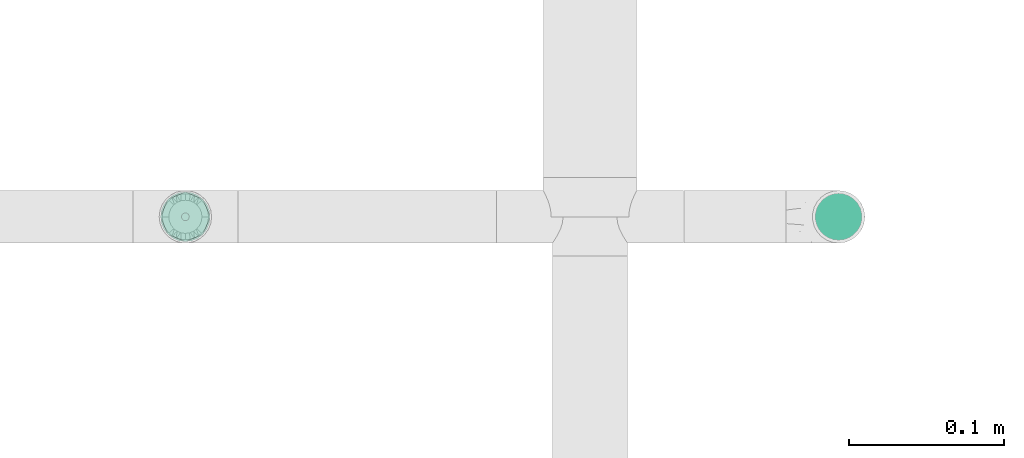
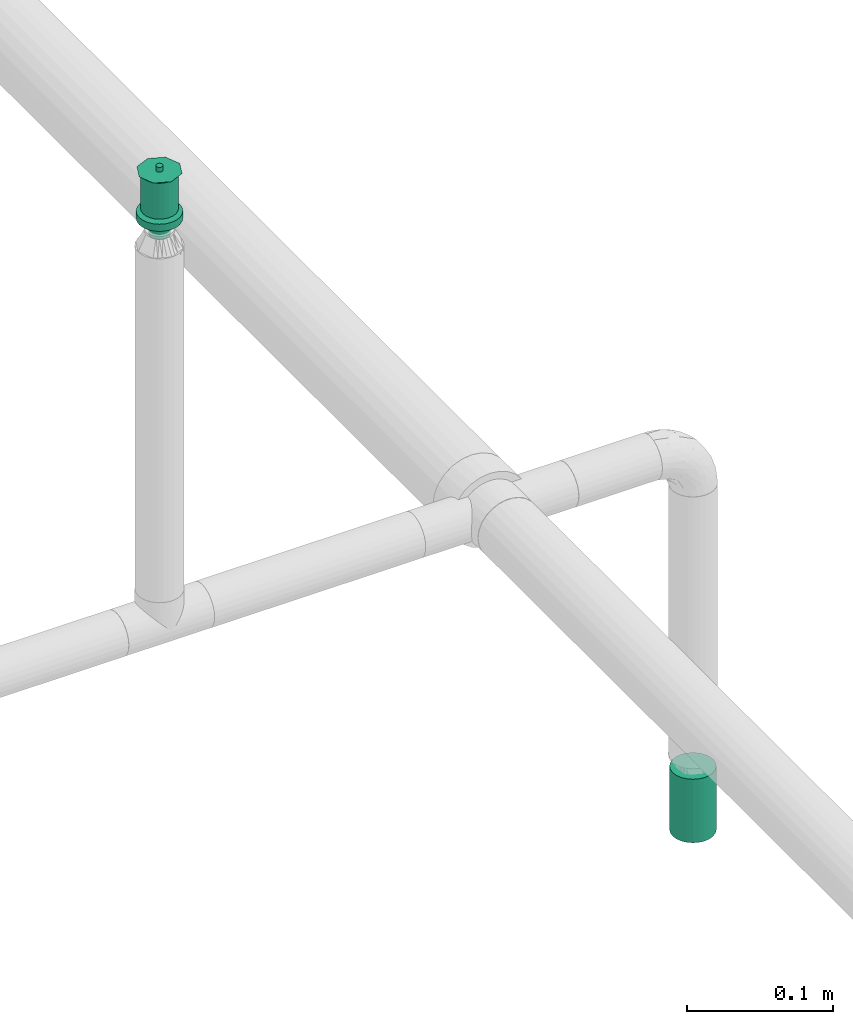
# One storey, part 101 of 157: 2 flow terminals.
"""IFC2X3 building model written with IfcOpenShell, lengths in millimetres."""

from ifc_helpers import new_model, entity, si_unit, converted_unit, derived_unit, direction, frame, origin_with_axes, place, context, subcontext, project, spatial, open_shell, surface_model, source, transform, mapped, type_object, element, save


model = new_model("IFC2X3")

# Units and contexts
model_context = context("Model", 3, precision=0.01, world=frame((0.0, 4.29681676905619e-09, 0.0)), true_north=direction((4.01073788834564e-13, 1.0)))
plan_context = context("Plan", 3, precision=0.01, world=frame((0.0, 4.29681676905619e-09, 0.0)), true_north=direction((4.01073788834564e-13, 1.0)))
body_context = subcontext(model_context, "Body", "Model", "MODEL_VIEW")
ifc_project = project(units=[converted_unit("PLANEANGLEUNIT", "DEGREE", entity("IfcPositiveLengthMeasure", 0.0174532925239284), si_unit("PLANEANGLEUNIT", "RADIAN"), dimensions=[0, 0, 0, 0, 0, 0, 0]), si_unit("AREAUNIT", "SQUARE_METRE"), si_unit("LENGTHUNIT", "METRE", prefix="MILLI"), si_unit("MASSUNIT", "GRAM", prefix="KILO"), si_unit("POWERUNIT", "WATT"), si_unit("PRESSUREUNIT", "PASCAL"), si_unit("FORCEUNIT", "NEWTON", prefix="KILO"), si_unit("ELECTRICCURRENTUNIT", "AMPERE"), si_unit("THERMODYNAMICTEMPERATUREUNIT", "DEGREE_CELSIUS"), si_unit("TIMEUNIT", "SECOND"), si_unit("VOLUMEUNIT", "CUBIC_METRE"), derived_unit("LINEARVELOCITYUNIT", [(si_unit("LENGTHUNIT", "METRE"), 1), (si_unit("TIMEUNIT", "SECOND"), -1)]), derived_unit("VOLUMETRICFLOWRATEUNIT", [(si_unit("VOLUMEUNIT", "CUBIC_METRE"), 1), (si_unit("TIMEUNIT", "SECOND"), -1)]), derived_unit("THERMALTRANSMITTANCEUNIT", [(si_unit("POWERUNIT", "WATT"), 1), (si_unit("THERMODYNAMICTEMPERATUREUNIT", "KELVIN"), -1), (si_unit("AREAUNIT", "SQUARE_METRE"), -1)])], contexts=[model_context, plan_context])

# Site, building, storey
site_placement = place(None, frame((0.0, -4.29681676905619e-09, 0.0), z_axis=(0.0, 0.0, 1.0), x_axis=(1.0, 0.0, 0.0)))
site = spatial("IfcSite", under=ifc_project, at=site_placement, CompositionType="ELEMENT")
building_placement = place(site_placement, frame((0.0, 4.29681676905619e-09, 0.0), z_axis=(0.0, 0.0, 1.0), x_axis=(1.0, 0.0, 0.0)))
building = spatial("IfcBuilding", under=site, at=building_placement, Name="mc-building", CompositionType="ELEMENT")
storey_placement = place(building_placement, frame((0.0, 0.0, 204000.0), z_axis=(0.0, 0.0, 1.0), x_axis=(1.0, 0.0, 0.0)))
storey = spatial("IfcBuildingStorey", under=building, at=storey_placement, Name="Nivå D", CompositionType="ELEMENT", Elevation=204000.0)

# Flow terminals
fire_suppression_terminal_type_1 = type_object("IfcFireSuppressionTerminalType", Name="SP-15-K80-68DGR-STD-NEDOVER-TØRR", PredefinedType="NOTDEFINED")
shared_shape_1 = source(origin_with_axes(), body_context, "Body", "SurfaceModel", [
    surface_model("IfcShellBasedSurfaceModel", [(4.1411, -15.45481, 53.0), (8.0, -13.85641, 53.0), (11.31371, -11.31371, 53.0), (-8.0, -13.85641, 53.0), (15.45481, -4.1411, 53.0), (16.0, 0.0, 53.0), (13.85641, -8.0, 53.0), (0.0, -16.0, 53.0), (-4.1411, -15.45481, 53.0), (-13.85641, -8.0, 53.0), (-11.31371, -11.31371, 53.0), (-15.45481, -4.1411, 53.0), (15.45481, 4.1411, 53.0), (13.85641, 8.0, 53.0), (11.31371, 11.31371, 53.0), (-4.1411, 15.45481, 53.0), (8.0, 13.85641, 53.0), (4.1411, 15.45481, 53.0), (0.0, 16.0, 53.0), (-13.85641, 8.0, 53.0), (-15.45481, 4.1411, 53.0), (-16.0, 0.0, 53.0), (-11.31371, 11.31371, 53.0), (-8.0, 13.85641, 53.0), (0.0, 16.0, 0.0), (4.1411, 15.45481, 0.0), (8.0, 13.85641, 0.0), (-4.1411, 15.45481, 0.0), (11.31371, 11.31371, 0.0), (13.85641, 8.0, 0.0), (15.45481, 4.1411, 0.0), (-15.45481, -4.1411, 0.0), (-11.31371, 11.31371, 0.0), (-8.0, 13.85641, 0.0), (-13.85641, 8.0, 0.0), (-15.45481, 4.1411, 0.0), (-16.0, 0.0, 0.0), (4.1411, -15.45481, 0.0), (16.0, 0.0, 0.0), (15.45481, -4.1411, 0.0), (13.85641, -8.0, 0.0), (11.31371, -11.31371, 0.0), (8.0, -13.85641, 0.0), (-8.0, -13.85641, 0.0), (-13.85641, -8.0, 0.0), (-11.31371, -11.31371, 0.0), (0.0, -16.0, 0.0), (-4.1411, -15.45481, 0.0)], [open_shell([[[0, 1, 2]], [[3, 0, 2]], [[4, 5, 2]], [[4, 2, 6]], [[3, 2, 5]], [[7, 3, 8]], [[7, 0, 3]], [[3, 9, 10]], [[9, 3, 11]], [[5, 11, 3]], [[5, 12, 11]], [[12, 13, 14]], [[15, 12, 14]], [[16, 17, 18]], [[14, 16, 15]], [[18, 15, 16]], [[11, 19, 20]], [[21, 11, 20]], [[22, 15, 23]], [[15, 22, 19]], [[19, 11, 15]], [[11, 12, 15]], [[24, 25, 26]], [[27, 24, 26]], [[28, 29, 30]], [[27, 26, 28]], [[27, 28, 31]], [[27, 32, 33]], [[32, 27, 34]], [[34, 31, 35]], [[31, 34, 27]], [[35, 31, 36]], [[28, 30, 31]], [[37, 38, 39]], [[37, 39, 40]], [[41, 42, 37]], [[41, 37, 40]], [[38, 37, 43]], [[44, 43, 45]], [[43, 44, 31]], [[43, 46, 47]], [[43, 31, 38]], [[37, 46, 43]], [[38, 31, 30]], [[11, 31, 44]], [[45, 9, 44]], [[3, 43, 47]], [[45, 43, 10]], [[8, 47, 46]], [[31, 21, 36]], [[31, 11, 21]], [[44, 9, 11]], [[45, 10, 9]], [[3, 10, 43]], [[47, 8, 3]], [[46, 7, 8]], [[0, 37, 42]], [[41, 1, 42]], [[6, 40, 39]], [[41, 40, 2]], [[4, 39, 38]], [[37, 0, 7]], [[42, 1, 0]], [[41, 2, 1]], [[40, 6, 2]], [[4, 6, 39]], [[38, 5, 4]], [[37, 7, 46]], [[12, 38, 30]], [[13, 30, 29]], [[16, 26, 25]], [[17, 25, 24]], [[30, 13, 12]], [[12, 5, 38]], [[28, 14, 13]], [[28, 26, 14]], [[14, 26, 16]], [[25, 17, 16]], [[28, 13, 29]], [[24, 18, 17]], [[15, 27, 33]], [[32, 23, 33]], [[19, 34, 35]], [[32, 34, 22]], [[20, 35, 36]], [[27, 15, 18]], [[33, 23, 15]], [[32, 22, 23]], [[34, 19, 22]], [[20, 19, 35]], [[36, 21, 20]], [[27, 18, 24]]])]),
])
flow_terminal_1_placement = place(storey_placement, frame((531260.79653, 410800.0, 2420.0), z_axis=(0.0, 0.0, -1.0), x_axis=(1.0, 0.0, 0.0)))
element("IfcFlowTerminal", 1, at=flow_terminal_1_placement, inside=storey, type_object=fire_suppression_terminal_type_1, Name="SP-15-K80-68DGR-STD-NEDOVER-TØRR", context=body_context, shape_type="MappedRepresentation", body=[
    mapped(shared_shape_1, transform((0.0, 0.0, 0.0), scale=1.0)),
])
fire_suppression_terminal_type_2 = type_object("IfcFireSuppressionTerminalType", Name="68DGR-STD-STÅENDE", PredefinedType="NOTDEFINED")
shared_shape_2 = source(origin_with_axes(), body_context, "Body", "SurfaceModel", [
    surface_model("IfcShellBasedSurfaceModel", [(3.36465, -12.55704, 51.0), (6.5, -11.25833, 51.0), (9.19239, -9.19239, 51.0), (12.55704, -3.36465, 51.0), (-11.25833, -6.5, 51.0), (11.25833, -6.5, 51.0), (-13.0, 0.0, 51.0), (0.0, -13.0, 51.0), (-6.5, -11.25833, 51.0), (-3.36465, -12.55704, 51.0), (-9.19239, -9.19239, 51.0), (-12.55704, -3.36465, 51.0), (13.0, 0.0, 51.0), (12.55704, 3.36465, 51.0), (11.25833, 6.5, 51.0), (9.19239, 9.19239, 51.0), (6.5, 11.25833, 51.0), (3.36465, 12.55704, 51.0), (0.0, 13.0, 51.0), (-3.36465, 12.55704, 51.0), (-12.55704, 3.36465, 51.0), (-9.19239, 9.19239, 51.0), (-11.25833, 6.5, 51.0), (-6.5, 11.25833, 51.0), (0.0, 13.0, 21.14766), (3.36465, 12.55704, 21.14766), (6.5, 11.25833, 21.14766), (-3.36465, 12.55704, 21.14766), (9.19239, 9.19239, 21.14766), (11.25833, 6.5, 21.14766), (12.55704, 3.36465, 21.14766), (-12.55704, 3.36465, 21.14766), (-11.25833, -6.5, 21.14766), (-9.19239, 9.19239, 21.14766), (-6.5, 11.25833, 21.14766), (-11.25833, 6.5, 21.14766), (-13.0, 0.0, 21.14766), (12.55704, -3.36465, 21.14766), (9.19239, -9.19239, 21.14766), (11.25833, -6.5, 21.14766), (6.5, -11.25833, 21.14766), (3.36465, -12.55704, 21.14766), (-6.5, -11.25833, 21.14766), (-9.19239, -9.19239, 21.14766), (-12.55704, -3.36465, 21.14766), (0.0, -13.0, 21.14766), (-3.36465, -12.55704, 21.14766), (13.0, 0.0, 21.14766), (7.24444, -1.94114, 0.1), (1.94114, -7.24444, 0.1), (3.75, -6.49519, 0.1), (5.3033, -5.3033, 0.1), (-5.3033, -5.3033, 0.1), (6.49519, -3.75, 0.1), (5.3033, 5.3033, 0.1), (0.0, -7.5, 0.1), (-3.75, -6.49519, 0.1), (-1.94114, -7.24444, 0.1), (-7.24444, -1.94114, 0.1), (-6.49519, -3.75, 0.1), (-7.24444, 1.94114, 0.1), (7.5, 0.0, 0.1), (6.49519, 3.75, 0.1), (-6.49519, 3.75, 0.1), (1.94114, 7.24444, 0.1), (0.0, 7.5, 0.1), (3.75, 6.49519, 0.1), (-7.5, 0.0, 0.1), (-5.3033, 5.3033, 0.1), (-1.94114, 7.24444, 0.1), (-3.75, 6.49519, 0.1), (7.24444, 1.94114, 0.1), (1.94114, 7.24444, -0.1), (-6.49519, 3.75, -0.1), (0.0, 7.5, -0.1), (5.3033, 5.3033, -0.1), (3.75, 6.49519, -0.1), (6.49519, 3.75, -0.1), (7.24444, 1.94114, -0.1), (-1.94114, 7.24444, -0.1), (-5.3033, 5.3033, -0.1), (-3.75, 6.49519, -0.1), (-7.24444, 1.94114, -0.1), (-7.24444, -1.94114, -0.1), (-7.5, 0.0, -0.1), (7.5, 0.0, -0.1), (7.24444, -1.94114, -0.1), (-5.3033, -5.3033, -0.1), (1.94114, -7.24444, -0.1), (6.49519, -3.75, -0.1), (5.3033, -5.3033, -0.1), (3.75, -6.49519, -0.1), (-6.49519, -3.75, -0.1), (-3.75, -6.49519, -0.1), (0.0, -7.5, -0.1), (-1.94114, -7.24444, -0.1), (0.0, -2.5, 51.0), (-2.5, 0.0, 51.0), (0.0, 2.5, 51.0), (2.5, 0.0, 51.0), (0.0, -16.0, 53.0), (11.31371, -11.31371, 53.0), (-11.31371, -11.31371, 53.0), (-16.0, 0.0, 53.0), (16.0, 0.0, 53.0), (11.31371, 11.31371, 53.0), (0.0, 16.0, 53.0), (-11.31371, 11.31371, 53.0), (1.25, -2.16506, 57.0), (0.0, -2.5, 57.0), (0.64705, -2.41481, 57.0), (2.41481, -0.64705, 57.0), (1.76777, -1.76777, 57.0), (-2.41481, -0.64705, 57.0), (-2.5, 0.0, 57.0), (2.16506, -1.25, 57.0), (-1.25, -2.16506, 57.0), (-0.64705, -2.41481, 57.0), (-1.76777, -1.76777, 57.0), (-2.16506, -1.25, 57.0), (2.5, 0.0, 57.0), (2.41481, 0.64705, 57.0), (2.16506, 1.25, 57.0), (1.76777, 1.76777, 57.0), (0.64705, 2.41481, 57.0), (1.25, 2.16506, 57.0), (-1.76777, 1.76777, 57.0), (0.0, 2.5, 57.0), (-2.16506, 1.25, 57.0), (-2.41481, 0.64705, 57.0), (-0.64705, 2.41481, 57.0), (-1.25, 2.16506, 57.0), (1.25, 2.16506, 51.0), (1.76777, 1.76777, 51.0), (1.15, 1.99186, 51.0), (0.59528, 2.22163, 51.0), (0.64705, 2.41481, 51.0), (0.0, 2.3, 51.0), (1.62635, 1.62635, 51.0), (2.41481, 0.64705, 51.0), (2.3, 0.0, 51.0), (2.22163, 0.59528, 51.0), (2.16506, 1.25, 51.0), (1.99186, 1.15, 51.0), (-0.59528, 2.22163, 51.0), (-0.64705, 2.41481, 51.0), (-1.15, 1.99186, 51.0), (-1.76777, 1.76777, 51.0), (-1.25, 2.16506, 51.0), (-1.62635, 1.62635, 51.0), (-1.99186, 1.15, 51.0), (-2.16506, 1.25, 51.0), (-2.22163, 0.59528, 51.0), (-2.41481, 0.64705, 51.0), (-2.3, 0.0, 51.0), (2.41481, -0.64705, 51.0), (2.22163, -0.59528, 51.0), (1.99186, -1.15, 51.0), (2.16506, -1.25, 51.0), (1.62635, -1.62635, 51.0), (1.76777, -1.76777, 51.0), (1.25, -2.16506, 51.0), (1.15, -1.99186, 51.0), (0.59528, -2.22163, 51.0), (0.64705, -2.41481, 51.0), (0.0, -2.3, 51.0), (-2.16506, -1.25, 51.0), (-1.99186, -1.15, 51.0), (-1.76777, -1.76777, 51.0), (-1.62635, -1.62635, 51.0), (-2.41481, -0.64705, 51.0), (-2.22163, -0.59528, 51.0), (-0.59528, -2.22163, 51.0), (-0.64705, -2.41481, 51.0), (-1.15, -1.99186, 51.0), (-1.25, -2.16506, 51.0), (1.62635, -1.62635, 56.8), (1.15, -1.99186, 56.8), (0.59528, -2.22163, 56.8), (0.0, -2.3, 56.8), (2.22163, 0.59528, 56.8), (1.99186, -1.15, 56.8), (2.22163, -0.59528, 56.8), (-0.59528, -2.22163, 56.8), (-1.15, -1.99186, 56.8), (-1.62635, -1.62635, 56.8), (-1.99186, -1.15, 56.8), (-2.22163, -0.59528, 56.8), (-1.99186, 1.15, 56.8), (2.3, 0.0, 56.8), (1.62635, 1.62635, 56.8), (1.99186, 1.15, 56.8), (1.15, 1.99186, 56.8), (0.0, 2.3, 56.8), (0.59528, 2.22163, 56.8), (-2.22163, 0.59528, 56.8), (-2.3, 0.0, 56.8), (-1.15, 1.99186, 56.8), (-0.59528, 2.22163, 56.8), (-1.62635, 1.62635, 56.8), (4.1411, -15.45481, 19.0), (8.0, -13.85641, 19.0), (11.31371, -11.31371, 19.0), (-8.0, -13.85641, 19.0), (15.45481, -4.1411, 19.0), (16.0, 0.0, 19.0), (13.85641, -8.0, 19.0), (0.0, -16.0, 19.0), (-4.1411, -15.45481, 19.0), (-13.85641, -8.0, 19.0), (-11.31371, -11.31371, 19.0), (-15.45481, -4.1411, 19.0), (15.45481, 4.1411, 19.0), (13.85641, 8.0, 19.0), (11.31371, 11.31371, 19.0), (-4.1411, 15.45481, 19.0), (8.0, 13.85641, 19.0), (4.1411, 15.45481, 19.0), (0.0, 16.0, 19.0), (-13.85641, 8.0, 19.0), (-15.45481, 4.1411, 19.0), (-16.0, 0.0, 19.0), (-11.31371, 11.31371, 19.0), (-8.0, 13.85641, 19.0), (0.0, 16.0, 13.0), (4.1411, 15.45481, 13.0), (8.0, 13.85641, 13.0), (-4.1411, 15.45481, 13.0), (11.31371, 11.31371, 13.0), (13.85641, 8.0, 13.0), (15.45481, 4.1411, 13.0), (-15.45481, -4.1411, 13.0), (-11.31371, 11.31371, 13.0), (-8.0, 13.85641, 13.0), (-13.85641, 8.0, 13.0), (-15.45481, 4.1411, 13.0), (-16.0, 0.0, 13.0), (4.1411, -15.45481, 13.0), (16.0, 0.0, 13.0), (15.45481, -4.1411, 13.0), (13.85641, -8.0, 13.0), (11.31371, -11.31371, 13.0), (8.0, -13.85641, 13.0), (-8.0, -13.85641, 13.0), (-13.85641, -8.0, 13.0), (-11.31371, -11.31371, 13.0), (0.0, -16.0, 13.0), (-4.1411, -15.45481, 13.0), (7.24444, -1.94114, 13.0), (1.94114, -7.24444, 13.0), (3.75, -6.49519, 13.0), (5.3033, -5.3033, 13.0), (-5.3033, -5.3033, 13.0), (6.49519, -3.75, 13.0), (5.3033, 5.3033, 13.0), (0.0, -7.5, 13.0), (-3.75, -6.49519, 13.0), (-1.94114, -7.24444, 13.0), (-7.24444, -1.94114, 13.0), (-6.49519, -3.75, 13.0), (-7.24444, 1.94114, 13.0), (7.5, 0.0, 13.0), (6.49519, 3.75, 13.0), (-6.49519, 3.75, 13.0), (1.94114, 7.24444, 13.0), (0.0, 7.5, 13.0), (3.75, 6.49519, 13.0), (-7.5, 0.0, 13.0), (-5.3033, 5.3033, 13.0), (-1.94114, 7.24444, 13.0), (-3.75, 6.49519, 13.0), (7.24444, 1.94114, 13.0), (3.75, 6.49519, 0.0), (5.3033, 5.3033, 0.0), (3.65, 6.32199, 0.0), (1.88938, 7.05126, 0.0), (0.0, 7.3, 0.0), (1.94114, 7.24444, 0.0), (0.0, 7.5, 0.0), (5.16188, 5.16188, 0.0), (7.24444, 1.94114, 0.0), (7.3, 0.0, 0.0), (7.05126, 1.88938, 0.0), (7.5, 0.0, 0.0), (6.49519, 3.75, 0.0), (6.32199, 3.65, 0.0), (-1.88938, 7.05126, 0.0), (-1.94114, 7.24444, 0.0), (-3.65, 6.32199, 0.0), (-5.3033, 5.3033, 0.0), (-3.75, 6.49519, 0.0), (-5.16188, 5.16188, 0.0), (-6.32199, 3.65, 0.0), (-6.49519, 3.75, 0.0), (-7.05126, 1.88938, 0.0), (-7.24444, 1.94114, 0.0), (-7.3, 0.0, 0.0), (-7.5, 0.0, 0.0), (7.24444, -1.94114, 0.0), (7.05126, -1.88938, 0.0), (6.32199, -3.65, 0.0), (6.49519, -3.75, 0.0), (5.16188, -5.16188, 0.0), (5.3033, -5.3033, 0.0), (3.75, -6.49519, 0.0), (3.65, -6.32199, 0.0), (1.88938, -7.05126, 0.0), (1.94114, -7.24444, 0.0), (0.0, -7.3, 0.0), (0.0, -7.5, 0.0), (-6.49519, -3.75, 0.0), (-6.32199, -3.65, 0.0), (-5.3033, -5.3033, 0.0), (-5.16188, -5.16188, 0.0), (-7.24444, -1.94114, 0.0), (-7.05126, -1.88938, 0.0), (-1.88938, -7.05126, 0.0), (-1.94114, -7.24444, 0.0), (-3.65, -6.32199, 0.0), (-3.75, -6.49519, 0.0), (1.88938, -7.05126, 12.8), (0.0, -7.3, 12.8), (3.65, -6.32199, 12.8), (5.16188, -5.16188, 12.8), (6.32199, -3.65, 12.8), (7.05126, 1.88938, 12.8), (7.05126, -1.88938, 12.8), (-5.16188, -5.16188, 12.8), (-1.88938, -7.05126, 12.8), (-3.65, -6.32199, 12.8), (-6.32199, -3.65, 12.8), (-7.05126, -1.88938, 12.8), (0.0, 7.3, 12.8), (7.3, 0.0, 12.8), (6.32199, 3.65, 12.8), (5.16188, 5.16188, 12.8), (3.65, 6.32199, 12.8), (1.88938, 7.05126, 12.8), (-6.32199, 3.65, 12.8), (-7.05126, 1.88938, 12.8), (-7.3, 0.0, 12.8), (-3.65, 6.32199, 12.8), (-1.88938, 7.05126, 12.8), (-5.16188, 5.16188, 12.8)], [open_shell([[[0, 1, 2]], [[0, 2, 3]], [[0, 3, 4]], [[3, 2, 5]], [[6, 4, 3]], [[7, 8, 9]], [[7, 0, 8]], [[8, 4, 10]], [[0, 4, 8]], [[4, 6, 11]], [[6, 3, 12]], [[13, 14, 15]], [[6, 13, 15]], [[16, 17, 18]], [[15, 16, 19]], [[18, 19, 16]], [[20, 21, 22]], [[20, 6, 15]], [[21, 19, 23]], [[19, 21, 20]], [[15, 19, 20]], [[13, 6, 12]], [[24, 25, 26]], [[27, 24, 26]], [[28, 29, 30]], [[26, 28, 31]], [[28, 32, 31]], [[27, 33, 34]], [[33, 27, 31]], [[33, 31, 35]], [[27, 26, 31]], [[31, 32, 36]], [[32, 28, 30]], [[32, 30, 37]], [[38, 37, 39]], [[38, 40, 41]], [[38, 41, 37]], [[32, 37, 41]], [[32, 42, 43]], [[44, 36, 32]], [[42, 45, 46]], [[42, 32, 41]], [[45, 42, 41]], [[30, 47, 37]], [[4, 32, 43]], [[8, 42, 46]], [[43, 42, 10]], [[9, 46, 45]], [[36, 11, 6]], [[11, 36, 44]], [[11, 44, 4]], [[44, 32, 4]], [[43, 10, 4]], [[8, 10, 42]], [[46, 9, 8]], [[45, 7, 9]], [[0, 41, 40]], [[38, 1, 40]], [[5, 39, 37]], [[38, 39, 2]], [[3, 37, 47]], [[41, 0, 7]], [[40, 1, 0]], [[38, 2, 1]], [[39, 5, 2]], [[3, 5, 37]], [[47, 12, 3]], [[41, 7, 45]], [[30, 13, 47]], [[29, 14, 30]], [[25, 24, 17]], [[15, 29, 28]], [[30, 14, 13]], [[13, 12, 47]], [[16, 26, 17]], [[16, 15, 28]], [[26, 25, 17]], [[15, 14, 29]], [[28, 26, 16]], [[24, 18, 17]], [[19, 27, 34]], [[33, 23, 34]], [[22, 35, 31]], [[33, 35, 21]], [[20, 31, 36]], [[27, 19, 18]], [[34, 23, 19]], [[33, 21, 23]], [[35, 22, 21]], [[20, 22, 31]], [[36, 6, 20]], [[27, 18, 24]], [[48, 49, 50]], [[48, 50, 51]], [[49, 48, 52]], [[48, 51, 53]], [[54, 52, 48]], [[55, 56, 57]], [[56, 55, 52]], [[52, 58, 59]], [[52, 55, 49]], [[52, 60, 58]], [[54, 48, 61]], [[62, 54, 61]], [[54, 63, 52]], [[64, 65, 54]], [[64, 54, 66]], [[63, 54, 65]], [[63, 60, 52]], [[67, 58, 60]], [[68, 69, 70]], [[69, 68, 63]], [[69, 63, 65]], [[71, 62, 61]], [[72, 73, 74]], [[75, 72, 76]], [[75, 77, 78]], [[72, 75, 73]], [[78, 73, 75]], [[79, 80, 81]], [[80, 79, 73]], [[74, 73, 79]], [[78, 82, 73]], [[82, 83, 84]], [[82, 78, 85]], [[86, 87, 85]], [[88, 86, 89]], [[90, 91, 88]], [[90, 88, 89]], [[87, 86, 88]], [[83, 87, 92]], [[83, 85, 87]], [[93, 94, 95]], [[94, 93, 87]], [[88, 94, 87]], [[85, 83, 82]], [[83, 58, 84]], [[92, 59, 83]], [[56, 87, 93]], [[92, 87, 52]], [[57, 93, 95]], [[83, 59, 58]], [[58, 67, 84]], [[57, 56, 93]], [[52, 87, 56]], [[52, 59, 92]], [[55, 57, 95]], [[95, 94, 55]], [[88, 49, 94]], [[91, 50, 88]], [[53, 90, 89]], [[91, 90, 51]], [[48, 89, 86]], [[91, 51, 50]], [[50, 49, 88]], [[61, 48, 86]], [[53, 89, 48]], [[53, 51, 90]], [[85, 61, 86]], [[94, 49, 55]], [[78, 71, 85]], [[77, 62, 78]], [[66, 75, 76]], [[77, 75, 54]], [[64, 76, 72]], [[78, 62, 71]], [[71, 61, 85]], [[64, 66, 76]], [[54, 75, 66]], [[54, 62, 77]], [[65, 64, 72]], [[72, 74, 65]], [[79, 69, 74]], [[81, 70, 79]], [[63, 80, 73]], [[81, 80, 68]], [[60, 73, 82]], [[81, 68, 70]], [[70, 69, 79]], [[67, 60, 82]], [[63, 73, 60]], [[63, 68, 80]], [[84, 67, 82]], [[74, 69, 65]], [[96, 97, 98]], [[98, 99, 96]], [[100, 101, 102]], [[103, 102, 101]], [[101, 104, 103]], [[104, 105, 106]], [[107, 103, 106]], [[106, 103, 104]], [[99, 98, 105]], [[105, 104, 99]], [[98, 106, 105]], [[98, 107, 106]], [[107, 98, 97]], [[103, 107, 97]], [[97, 96, 102]], [[102, 103, 97]], [[96, 100, 102]], [[96, 101, 100]], [[101, 96, 99]], [[104, 101, 99]], [[108, 109, 110]], [[111, 108, 112]], [[113, 108, 114]], [[111, 112, 115]], [[108, 111, 114]], [[109, 116, 117]], [[116, 109, 118]], [[118, 113, 119]], [[118, 109, 108]], [[108, 113, 118]], [[111, 120, 114]], [[121, 122, 123]], [[114, 121, 123]], [[114, 123, 124]], [[124, 123, 125]], [[126, 124, 127]], [[124, 128, 129]], [[129, 114, 124]], [[126, 130, 131]], [[128, 124, 126]], [[130, 126, 127]], [[121, 114, 120]], [[132, 133, 134]], [[132, 134, 135]], [[136, 135, 137]], [[135, 136, 132]], [[136, 137, 98]], [[134, 133, 138]], [[139, 140, 141]], [[140, 139, 99]], [[139, 141, 142]], [[138, 142, 143]], [[142, 138, 133]], [[143, 142, 141]], [[98, 144, 145]], [[98, 137, 144]], [[145, 144, 146]], [[147, 148, 149]], [[146, 148, 145]], [[149, 148, 146]], [[150, 151, 147]], [[151, 150, 152]], [[150, 147, 149]], [[153, 152, 154]], [[152, 153, 151]], [[153, 154, 97]], [[99, 155, 156]], [[156, 155, 157]], [[157, 158, 159]], [[158, 157, 155]], [[159, 158, 160]], [[160, 161, 162]], [[162, 161, 163]], [[163, 164, 165]], [[164, 163, 161]], [[165, 164, 96]], [[162, 159, 160]], [[166, 167, 168]], [[168, 167, 169]], [[167, 166, 170]], [[97, 171, 170]], [[170, 171, 167]], [[97, 154, 171]], [[172, 96, 173]], [[172, 173, 174]], [[169, 175, 168]], [[175, 169, 174]], [[175, 174, 173]], [[165, 96, 172]], [[156, 140, 99]], [[170, 113, 97]], [[166, 119, 170]], [[116, 168, 175]], [[166, 168, 118]], [[117, 175, 173]], [[170, 119, 113]], [[113, 114, 97]], [[117, 116, 175]], [[118, 168, 116]], [[118, 119, 166]], [[109, 117, 173]], [[173, 96, 109]], [[164, 110, 96]], [[161, 108, 164]], [[115, 160, 158]], [[161, 160, 112]], [[111, 158, 155]], [[161, 112, 108]], [[108, 110, 164]], [[120, 111, 155]], [[115, 158, 111]], [[115, 112, 160]], [[99, 120, 155]], [[96, 110, 109]], [[139, 121, 99]], [[142, 122, 139]], [[125, 133, 132]], [[142, 133, 123]], [[124, 132, 136]], [[139, 122, 121]], [[121, 120, 99]], [[124, 125, 132]], [[123, 133, 125]], [[123, 122, 142]], [[127, 124, 136]], [[136, 98, 127]], [[145, 130, 98]], [[148, 131, 145]], [[128, 147, 151]], [[148, 147, 126]], [[129, 151, 153]], [[148, 126, 131]], [[131, 130, 145]], [[114, 129, 153]], [[128, 151, 129]], [[128, 126, 147]], [[97, 114, 153]], [[98, 130, 127]], [[176, 177, 178]], [[176, 178, 179]], [[180, 176, 179]], [[181, 176, 182]], [[180, 182, 176]], [[183, 184, 179]], [[185, 179, 184]], [[186, 187, 185]], [[185, 187, 188]], [[179, 185, 188]], [[189, 182, 180]], [[190, 191, 180]], [[192, 190, 180]], [[193, 194, 192]], [[180, 193, 192]], [[188, 193, 180]], [[195, 188, 196]], [[196, 188, 187]], [[197, 198, 199]], [[188, 199, 198]], [[188, 198, 193]], [[180, 179, 188]], [[154, 187, 171]], [[171, 186, 167]], [[174, 169, 184]], [[185, 169, 167]], [[172, 174, 183]], [[187, 186, 171]], [[154, 196, 187]], [[174, 184, 183]], [[184, 169, 185]], [[167, 186, 185]], [[172, 183, 179]], [[179, 165, 172]], [[165, 178, 163]], [[163, 177, 162]], [[157, 159, 181]], [[176, 159, 162]], [[156, 157, 182]], [[177, 176, 162]], [[163, 178, 177]], [[156, 182, 189]], [[182, 157, 181]], [[159, 176, 181]], [[156, 189, 140]], [[179, 178, 165]], [[140, 180, 141]], [[141, 191, 143]], [[134, 138, 192]], [[190, 138, 143]], [[135, 134, 194]], [[180, 191, 141]], [[140, 189, 180]], [[134, 192, 194]], [[192, 138, 190]], [[143, 191, 190]], [[135, 194, 193]], [[193, 137, 135]], [[137, 198, 144]], [[144, 197, 146]], [[150, 149, 188]], [[199, 149, 146]], [[152, 150, 195]], [[197, 199, 146]], [[144, 198, 197]], [[152, 195, 196]], [[195, 150, 188]], [[149, 199, 188]], [[152, 196, 154]], [[193, 198, 137]], [[200, 201, 202]], [[203, 200, 202]], [[204, 205, 202]], [[204, 202, 206]], [[203, 202, 205]], [[207, 203, 208]], [[207, 200, 203]], [[203, 209, 210]], [[209, 203, 211]], [[205, 211, 203]], [[205, 212, 211]], [[212, 213, 214]], [[215, 212, 214]], [[216, 217, 218]], [[214, 216, 215]], [[218, 215, 216]], [[211, 219, 220]], [[221, 211, 220]], [[222, 215, 223]], [[215, 222, 219]], [[219, 211, 215]], [[211, 212, 215]], [[224, 225, 226]], [[227, 224, 226]], [[228, 229, 230]], [[227, 226, 228]], [[227, 228, 231]], [[227, 232, 233]], [[232, 227, 234]], [[234, 231, 235]], [[231, 234, 227]], [[235, 231, 236]], [[228, 230, 231]], [[237, 238, 239]], [[237, 239, 240]], [[241, 242, 237]], [[241, 237, 240]], [[238, 237, 243]], [[244, 243, 245]], [[243, 244, 231]], [[243, 246, 247]], [[243, 231, 238]], [[237, 246, 243]], [[238, 231, 230]], [[231, 211, 236]], [[244, 209, 231]], [[203, 245, 243]], [[244, 245, 210]], [[208, 243, 247]], [[231, 209, 211]], [[211, 221, 236]], [[208, 203, 243]], [[210, 245, 203]], [[210, 209, 244]], [[207, 208, 247]], [[247, 246, 207]], [[237, 200, 246]], [[242, 201, 237]], [[206, 241, 240]], [[242, 241, 202]], [[204, 240, 239]], [[242, 202, 201]], [[201, 200, 237]], [[205, 204, 239]], [[206, 240, 204]], [[206, 202, 241]], [[238, 205, 239]], [[246, 200, 207]], [[230, 212, 238]], [[229, 213, 230]], [[216, 228, 226]], [[229, 228, 214]], [[217, 226, 225]], [[230, 213, 212]], [[212, 205, 238]], [[217, 216, 226]], [[214, 228, 216]], [[214, 213, 229]], [[218, 217, 225]], [[225, 224, 218]], [[227, 215, 224]], [[233, 223, 227]], [[219, 232, 234]], [[233, 232, 222]], [[220, 234, 235]], [[233, 222, 223]], [[223, 215, 227]], [[221, 220, 235]], [[219, 234, 220]], [[219, 222, 232]], [[236, 221, 235]], [[224, 215, 218]], [[248, 249, 250]], [[248, 250, 251]], [[249, 248, 252]], [[248, 251, 253]], [[254, 252, 248]], [[255, 256, 257]], [[256, 255, 252]], [[252, 258, 259]], [[252, 255, 249]], [[252, 260, 258]], [[254, 248, 261]], [[262, 254, 261]], [[254, 263, 252]], [[264, 265, 254]], [[264, 254, 266]], [[263, 254, 265]], [[263, 260, 252]], [[267, 258, 260]], [[268, 269, 270]], [[269, 268, 263]], [[269, 263, 265]], [[271, 262, 261]], [[272, 273, 274]], [[272, 274, 275]], [[276, 277, 275]], [[277, 276, 278]], [[275, 277, 272]], [[274, 273, 279]], [[280, 281, 282]], [[281, 280, 283]], [[280, 282, 284]], [[279, 284, 285]], [[284, 279, 273]], [[285, 284, 282]], [[278, 286, 287]], [[287, 286, 288]], [[289, 290, 291]], [[288, 290, 287]], [[288, 291, 290]], [[278, 276, 286]], [[292, 293, 289]], [[293, 292, 294]], [[292, 289, 291]], [[295, 294, 296]], [[294, 295, 293]], [[295, 296, 297]], [[283, 298, 299]], [[299, 298, 300]], [[300, 301, 302]], [[301, 300, 298]], [[302, 301, 303]], [[303, 304, 305]], [[305, 304, 306]], [[306, 307, 308]], [[307, 306, 304]], [[308, 307, 309]], [[305, 302, 303]], [[310, 311, 312]], [[312, 311, 313]], [[311, 310, 314]], [[297, 315, 314]], [[314, 315, 311]], [[297, 296, 315]], [[316, 309, 317]], [[316, 317, 318]], [[313, 319, 312]], [[313, 318, 319]], [[319, 318, 317]], [[308, 309, 316]], [[299, 281, 283]], [[314, 258, 297]], [[310, 259, 314]], [[256, 312, 319]], [[310, 312, 252]], [[257, 319, 317]], [[314, 259, 258]], [[258, 267, 297]], [[257, 256, 319]], [[252, 312, 256]], [[252, 259, 310]], [[255, 257, 317]], [[317, 309, 255]], [[307, 249, 309]], [[304, 250, 307]], [[253, 303, 301]], [[304, 303, 251]], [[248, 301, 298]], [[304, 251, 250]], [[250, 249, 307]], [[261, 248, 298]], [[253, 301, 248]], [[253, 251, 303]], [[283, 261, 298]], [[309, 249, 255]], [[280, 271, 283]], [[284, 262, 280]], [[266, 273, 272]], [[284, 273, 254]], [[264, 272, 277]], [[280, 262, 271]], [[271, 261, 283]], [[264, 266, 272]], [[254, 273, 266]], [[254, 262, 284]], [[265, 264, 277]], [[277, 278, 265]], [[287, 269, 278]], [[290, 270, 287]], [[263, 289, 293]], [[290, 289, 268]], [[260, 293, 295]], [[290, 268, 270]], [[270, 269, 287]], [[267, 260, 295]], [[263, 293, 260]], [[263, 268, 289]], [[297, 267, 295]], [[278, 269, 265]], [[320, 321, 322]], [[323, 322, 324]], [[325, 326, 322]], [[324, 322, 326]], [[322, 327, 325]], [[328, 329, 321]], [[327, 321, 329]], [[330, 331, 327]], [[322, 321, 327]], [[331, 332, 327]], [[326, 325, 333]], [[334, 325, 332]], [[335, 334, 336]], [[332, 337, 336]], [[334, 332, 336]], [[331, 338, 332]], [[339, 338, 340]], [[340, 338, 331]], [[341, 342, 343]], [[332, 338, 343]], [[332, 343, 342]], [[332, 325, 327]], [[296, 331, 315]], [[315, 330, 311]], [[318, 313, 329]], [[327, 313, 311]], [[316, 318, 328]], [[331, 330, 315]], [[296, 340, 331]], [[318, 329, 328]], [[329, 313, 327]], [[311, 330, 327]], [[316, 328, 321]], [[321, 308, 316]], [[308, 320, 306]], [[306, 322, 305]], [[300, 302, 324]], [[323, 302, 305]], [[299, 300, 326]], [[322, 323, 305]], [[306, 320, 322]], [[299, 326, 333]], [[326, 300, 324]], [[302, 323, 324]], [[299, 333, 281]], [[321, 320, 308]], [[281, 325, 282]], [[282, 334, 285]], [[274, 279, 336]], [[335, 279, 285]], [[275, 274, 337]], [[325, 334, 282]], [[281, 333, 325]], [[274, 336, 337]], [[336, 279, 335]], [[285, 334, 335]], [[275, 337, 332]], [[332, 276, 275]], [[276, 342, 286]], [[286, 341, 288]], [[292, 291, 338]], [[343, 291, 288]], [[294, 292, 339]], [[341, 343, 288]], [[286, 342, 341]], [[294, 339, 340]], [[339, 292, 338]], [[291, 343, 338]], [[294, 340, 296]], [[332, 342, 276]]])]),
])
flow_terminal_2_placement = place(storey_placement, frame((530839.775, 410800.0, 3011.5), z_axis=(0.0, 0.0, 1.0), x_axis=(1.0, 0.0, 0.0)))
element("IfcFlowTerminal", 2, at=flow_terminal_2_placement, inside=storey, type_object=fire_suppression_terminal_type_2, Name="68DGR-STD-STÅENDE", context=body_context, shape_type="MappedRepresentation", body=[
    mapped(shared_shape_2, transform((0.0, 0.0, 0.0), scale=1.0)),
])

save(model, "model.ifc")
